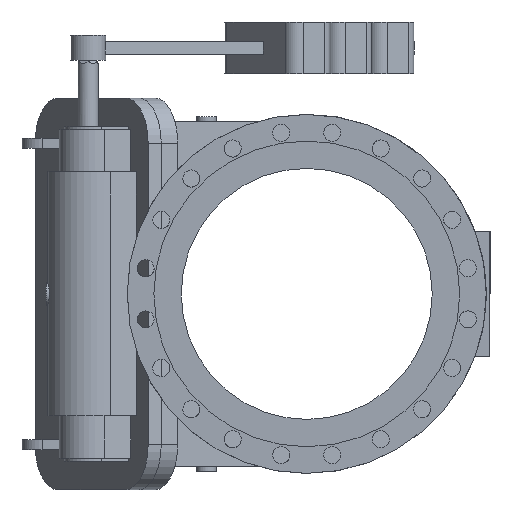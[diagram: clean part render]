
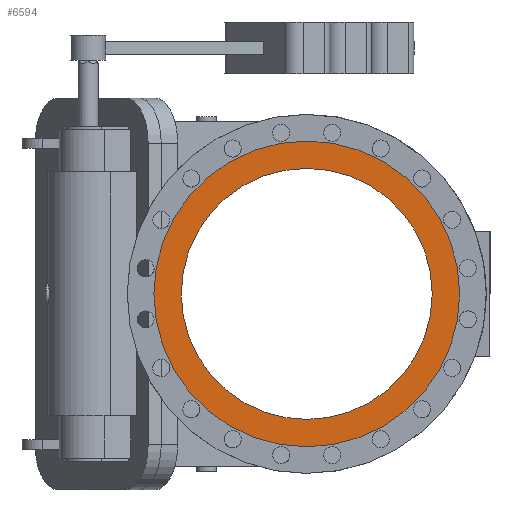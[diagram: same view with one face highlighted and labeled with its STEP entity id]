
A CAD part, left-side view. The second image highlights one B-rep face of the part: STEP entity #6594.
In plain terms, the highlighted planar face has unit normal (-1, 0, 0).
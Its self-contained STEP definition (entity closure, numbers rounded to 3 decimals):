
#5445 = FACE_OUTER_BOUND ( 'NONE', #27936, .T. ) ;
#5448 = FACE_BOUND ( 'NONE', #27938, .T. ) ;
#5596 = CARTESIAN_POINT ( 'NONE',  ( -1100., 0., 304.5 ) ) ;
#5671 = CARTESIAN_POINT ( 'NONE',  ( -1100., 0., 250. ) ) ;
#5760 = ORIENTED_EDGE ( 'NONE', *, *, #26117, .T. ) ;
#5792 = ORIENTED_EDGE ( 'NONE', *, *, #26475, .F. ) ;
#6594 = ADVANCED_FACE ( 'NONE', ( #5445, #5448 ), #11459, .F. ) ;
#11459 = PLANE ( 'NONE',  #26343 ) ;
#11460 = CARTESIAN_POINT ( 'NONE',  ( -1100., 0., 0. ) ) ;
#11465 = DIRECTION ( 'NONE',  ( 1., 0., 0. ) ) ;
#11466 = DIRECTION ( 'NONE',  ( 0., 0., -1. ) ) ;
#16051 = CARTESIAN_POINT ( 'NONE',  ( -1100., 0., 0. ) ) ;
#16052 = DIRECTION ( 'NONE',  ( -1., 0., 0. ) ) ;
#16054 = DIRECTION ( 'NONE',  ( 0., 0., 1. ) ) ;
#16581 = CIRCLE ( 'NONE', #23095, 304.5 ) ;
#16949 = CIRCLE ( 'NONE', #23195, 250. ) ;
#17010 = VERTEX_POINT ( 'NONE', #5596 ) ;
#17085 = VERTEX_POINT ( 'NONE', #5671 ) ;
#18157 = CARTESIAN_POINT ( 'NONE',  ( -1100., 0., 0. ) ) ;
#18158 = DIRECTION ( 'NONE',  ( -1., 0., 0. ) ) ;
#18159 = DIRECTION ( 'NONE',  ( 0., 0., 1. ) ) ;
#23095 = AXIS2_PLACEMENT_3D ( 'NONE', #16051, #16052, #16054 ) ;
#23195 = AXIS2_PLACEMENT_3D ( 'NONE', #18157, #18158, #18159 ) ;
#26117 = EDGE_CURVE ( 'NONE', #17010, #17010, #16581, .T. ) ;
#26343 = AXIS2_PLACEMENT_3D ( 'NONE', #11460, #11465, #11466 ) ;
#26475 = EDGE_CURVE ( 'NONE', #17085, #17085, #16949, .T. ) ;
#27936 = EDGE_LOOP ( 'NONE', ( #5760 ) ) ;
#27938 = EDGE_LOOP ( 'NONE', ( #5792 ) ) ;
